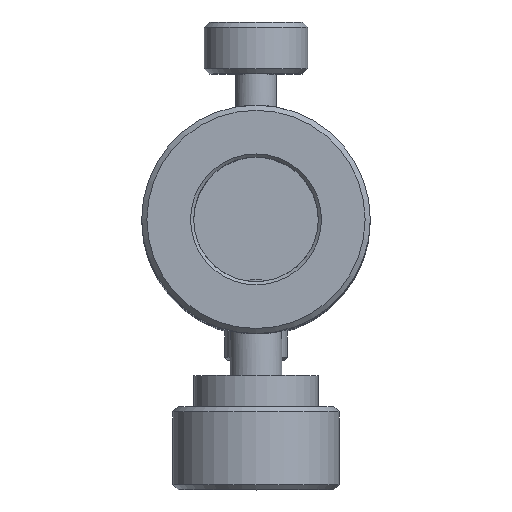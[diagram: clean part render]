
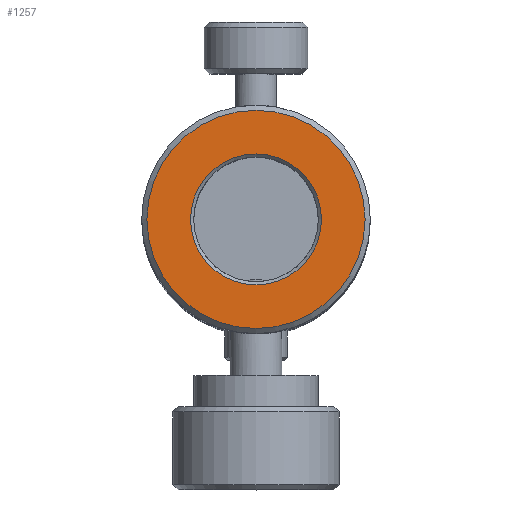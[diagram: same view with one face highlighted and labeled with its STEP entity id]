
A CAD part, top view. The second image highlights one B-rep face of the part: STEP entity #1257.
In plain terms, the highlighted planar face has unit normal (0, 0, 1).
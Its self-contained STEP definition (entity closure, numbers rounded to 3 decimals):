
#19=FACE_BOUND('',#190,.T.);
#62=PLANE('',#1379);
#103=FACE_OUTER_BOUND('',#189,.T.);
#189=EDGE_LOOP('',(#844));
#190=EDGE_LOOP('',(#845));
#296=CIRCLE('',#1378,6.3);
#297=CIRCLE('',#1380,10.5);
#530=VERTEX_POINT('',#2031);
#531=VERTEX_POINT('',#2035);
#647=EDGE_CURVE('',#530,#530,#296,.T.);
#649=EDGE_CURVE('',#531,#531,#297,.T.);
#844=ORIENTED_EDGE('',*,*,#649,.F.);
#845=ORIENTED_EDGE('',*,*,#647,.F.);
#1257=ADVANCED_FACE('',(#103,#19),#62,.F.);
#1378=AXIS2_PLACEMENT_3D('',#2032,#1582,#1583);
#1379=AXIS2_PLACEMENT_3D('',#2034,#1585,#1586);
#1380=AXIS2_PLACEMENT_3D('',#2036,#1587,#1588);
#1582=DIRECTION('center_axis',(0.,0.,1.));
#1583=DIRECTION('ref_axis',(1.,0.,0.));
#1585=DIRECTION('center_axis',(0.,0.,-1.));
#1586=DIRECTION('ref_axis',(1.,0.,0.));
#1587=DIRECTION('center_axis',(0.,0.,-1.));
#1588=DIRECTION('ref_axis',(1.,0.,0.));
#2031=CARTESIAN_POINT('',(-6.3,0.,108.));
#2032=CARTESIAN_POINT('Origin',(0.,0.,108.));
#2034=CARTESIAN_POINT('Origin',(0.,0.,108.));
#2035=CARTESIAN_POINT('',(-10.5,0.,108.));
#2036=CARTESIAN_POINT('Origin',(0.,0.,108.));
